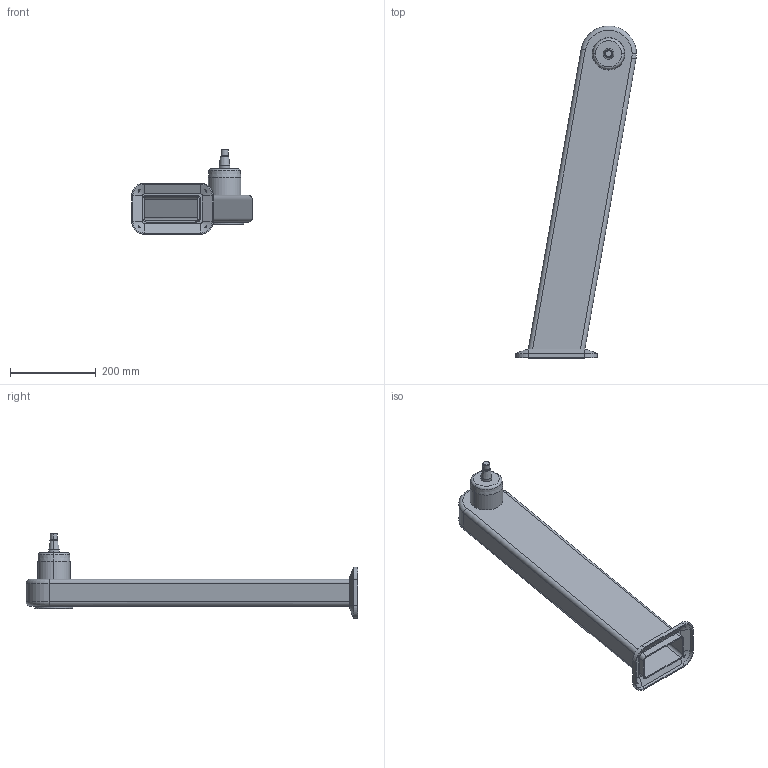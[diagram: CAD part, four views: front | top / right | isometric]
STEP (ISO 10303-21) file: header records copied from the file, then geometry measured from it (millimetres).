
FILE_DESCRIPTION (( 'STEP AP214' ), '1' );
FILE_NAME ('WP710_H710_+10.STEP', '2014-06-27T07:53:20', ( '' ), ( '' ), 'SwSTEP 2.0', 'SolidWorks 2014', '' );
FILE_SCHEMA (( 'AUTOMOTIVE_DESIGN' ));
Length unit declared in the file: millimetre
Products named in the file (1): WP710_H710_+10
Bounding box: 282.17 x 775 x 198 mm (x, y, z)
Volume: 1258833.6 mm3; surface area: 624384 mm2
Topology: 1 solids, 1 shells, 114 faces, 256 edges, 156 vertices
Faces by surface type: cylinder 42, plane 40, cone 20, torus 12
Entity records: 3285 total; most frequent: CARTESIAN_POINT 680, DIRECTION 570, ORIENTED_EDGE 512, EDGE_CURVE 256, AXIS2_PLACEMENT_3D 221, VERTEX_POINT 156, EDGE_LOOP 128, VECTOR 128
